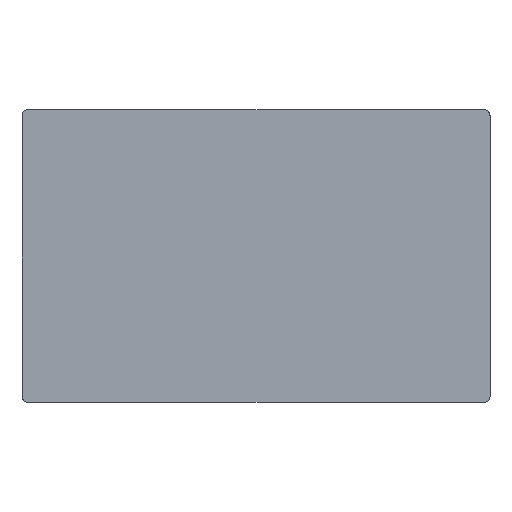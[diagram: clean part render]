
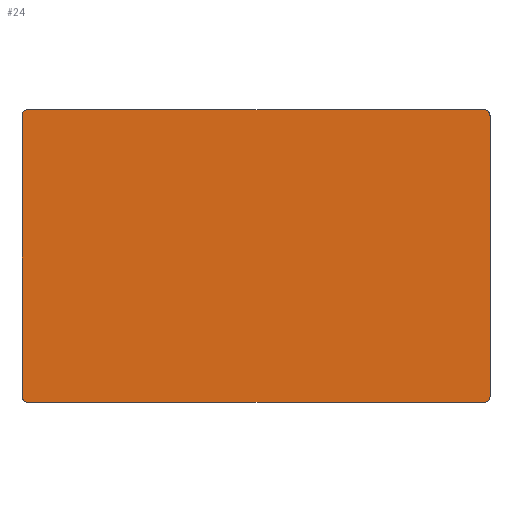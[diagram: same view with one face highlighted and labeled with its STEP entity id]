
A CAD part, top view. The second image highlights one B-rep face of the part: STEP entity #24.
In plain terms, the highlighted planar face has unit normal (0, 0, 1).
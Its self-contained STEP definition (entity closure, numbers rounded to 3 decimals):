
#24=ADVANCED_FACE($,(#62),#458,.T.);
#62=FACE_OUTER_BOUND($,#100,.T.);
#100=EDGE_LOOP($,(#148,#149,#150,#151,#152,#153,#154,#155));
#148=ORIENTED_EDGE($,*,*,#319,.F.);
#149=ORIENTED_EDGE($,*,*,#310,.F.);
#150=ORIENTED_EDGE($,*,*,#318,.F.);
#151=ORIENTED_EDGE($,*,*,#309,.F.);
#152=ORIENTED_EDGE($,*,*,#317,.F.);
#153=ORIENTED_EDGE($,*,*,#308,.F.);
#154=ORIENTED_EDGE($,*,*,#316,.F.);
#155=ORIENTED_EDGE($,*,*,#311,.F.);
#308=EDGE_CURVE($,#397,#396,#518,.T.);
#309=EDGE_CURVE($,#399,#398,#519,.T.);
#310=EDGE_CURVE($,#401,#400,#520,.T.);
#311=EDGE_CURVE($,#403,#402,#521,.T.);
#316=EDGE_CURVE($,#402,#397,#486,.T.);
#317=EDGE_CURVE($,#396,#399,#487,.T.);
#318=EDGE_CURVE($,#398,#401,#488,.T.);
#319=EDGE_CURVE($,#400,#403,#489,.T.);
#396=VERTEX_POINT($,#846);
#397=VERTEX_POINT($,#847);
#398=VERTEX_POINT($,#848);
#399=VERTEX_POINT($,#849);
#400=VERTEX_POINT($,#850);
#401=VERTEX_POINT($,#851);
#402=VERTEX_POINT($,#852);
#403=VERTEX_POINT($,#853);
#458=PLANE($,#656);
#486=(
BOUNDED_CURVE()
B_SPLINE_CURVE(2,(#740,#741,#742),.UNSPECIFIED.,.F.,.F.)
B_SPLINE_CURVE_WITH_KNOTS((3,3),(-1.,0.),.UNSPECIFIED.)
CURVE()
GEOMETRIC_REPRESENTATION_ITEM()
RATIONAL_B_SPLINE_CURVE((1.,0.707,1.))
REPRESENTATION_ITEM($)
);
#487=(
BOUNDED_CURVE()
B_SPLINE_CURVE(2,(#743,#744,#745),.UNSPECIFIED.,.F.,.F.)
B_SPLINE_CURVE_WITH_KNOTS((3,3),(0.,1.),.UNSPECIFIED.)
CURVE()
GEOMETRIC_REPRESENTATION_ITEM()
RATIONAL_B_SPLINE_CURVE((1.,0.707,1.))
REPRESENTATION_ITEM($)
);
#488=(
BOUNDED_CURVE()
B_SPLINE_CURVE(2,(#746,#747,#748),.UNSPECIFIED.,.F.,.F.)
B_SPLINE_CURVE_WITH_KNOTS((3,3),(0.,1.),.UNSPECIFIED.)
CURVE()
GEOMETRIC_REPRESENTATION_ITEM()
RATIONAL_B_SPLINE_CURVE((1.,0.707,1.))
REPRESENTATION_ITEM($)
);
#489=(
BOUNDED_CURVE()
B_SPLINE_CURVE(2,(#749,#750,#751),.UNSPECIFIED.,.F.,.F.)
B_SPLINE_CURVE_WITH_KNOTS((3,3),(0.,1.),.UNSPECIFIED.)
CURVE()
GEOMETRIC_REPRESENTATION_ITEM()
RATIONAL_B_SPLINE_CURVE((1.,0.707,1.))
REPRESENTATION_ITEM($)
);
#518=B_SPLINE_CURVE_WITH_KNOTS($,1,(#720,#721),.UNSPECIFIED.,.F.,.F.,(2,
2),(20.,980.),.UNSPECIFIED.);
#519=B_SPLINE_CURVE_WITH_KNOTS($,1,(#722,#723),.UNSPECIFIED.,.F.,.F.,(2,
2),(20.,1580.),.UNSPECIFIED.);
#520=B_SPLINE_CURVE_WITH_KNOTS($,1,(#724,#725),.UNSPECIFIED.,.F.,.F.,(2,
2),(20.,980.),.UNSPECIFIED.);
#521=B_SPLINE_CURVE_WITH_KNOTS($,1,(#726,#727),.UNSPECIFIED.,.F.,.F.,(2,
2),(20.,1580.),.UNSPECIFIED.);
#656=AXIS2_PLACEMENT_3D($,#786,#685,$);
#685=DIRECTION($,(0.,0.,1.));
#720=CARTESIAN_POINT($,(0.,20.,312.));
#721=CARTESIAN_POINT($,(0.,980.,312.));
#722=CARTESIAN_POINT($,(20.,1000.,312.));
#723=CARTESIAN_POINT($,(1580.,1000.,312.));
#724=CARTESIAN_POINT($,(1600.,980.,312.));
#725=CARTESIAN_POINT($,(1600.,20.,312.));
#726=CARTESIAN_POINT($,(1580.,0.,312.));
#727=CARTESIAN_POINT($,(20.,0.,312.));
#740=CARTESIAN_POINT($,(20.,0.,312.));
#741=CARTESIAN_POINT($,(0.,0.,312.));
#742=CARTESIAN_POINT($,(0.,20.,312.));
#743=CARTESIAN_POINT($,(0.,980.,312.));
#744=CARTESIAN_POINT($,(0.,1000.,312.));
#745=CARTESIAN_POINT($,(20.,1000.,312.));
#746=CARTESIAN_POINT($,(1580.,1000.,312.));
#747=CARTESIAN_POINT($,(1600.,1000.,312.));
#748=CARTESIAN_POINT($,(1600.,980.,312.));
#749=CARTESIAN_POINT($,(1600.,20.,312.));
#750=CARTESIAN_POINT($,(1600.,0.,312.));
#751=CARTESIAN_POINT($,(1580.,0.,312.));
#786=CARTESIAN_POINT($,(0.,0.,312.));
#846=CARTESIAN_POINT($,(0.,980.,312.));
#847=CARTESIAN_POINT($,(0.,20.,312.));
#848=CARTESIAN_POINT($,(1580.,1000.,312.));
#849=CARTESIAN_POINT($,(20.,1000.,312.));
#850=CARTESIAN_POINT($,(1600.,20.,312.));
#851=CARTESIAN_POINT($,(1600.,980.,312.));
#852=CARTESIAN_POINT($,(20.,0.,312.));
#853=CARTESIAN_POINT($,(1580.,0.,312.));
